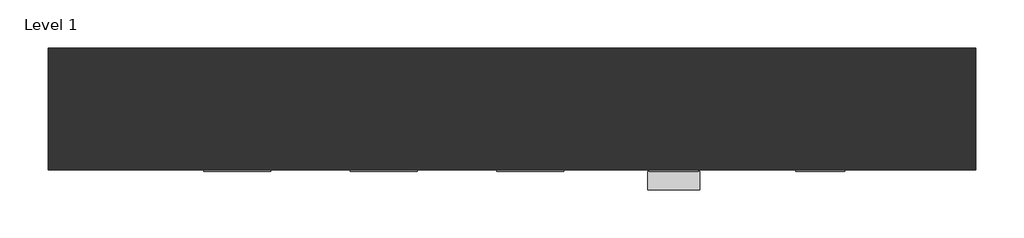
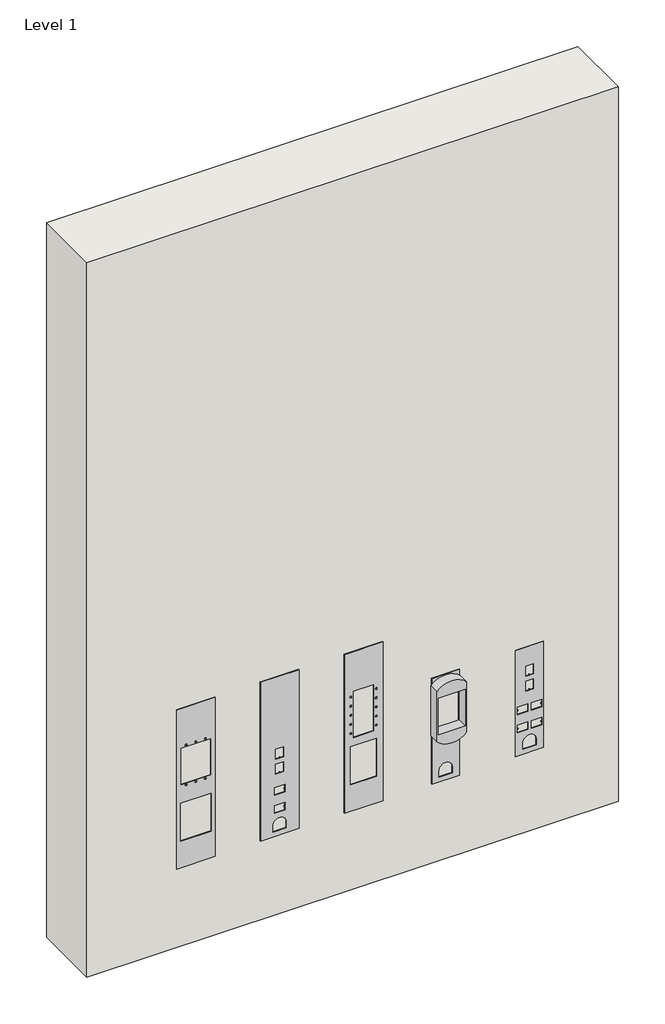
# One storey: 5 proxies, 1 wall.
"""IFC4 building model written with IfcOpenShell, lengths in millimetres."""

import ifcopenshell
import ifcopenshell.guid

model = None  # the IFC model being written
_history = None  # IfcOwnerHistory: only IFC2X3 demands one
_inside = {}  # id of a spatial element -> (the spatial element, [elements in it])
_under = {}  # id of a project, library or spatial element -> (it, [spatial elements below it])
_declared = {}  # id of a project -> (the project, [libraries it declares])
_typed = {}  # id of a type object -> (the type object, [elements of that type])
_made_of = {}  # id of a material, layer set ... -> (it, [elements and type objects made of it])


def new_model(schema):
    """Start an empty IFC model of exactly this schema.

    Asked for "IFC4X3", IfcOpenShell would pick the latest addendum, in which some entities
    have other attributes; the version numbers below select the first issue.
    IFC2X3 requires an IfcOwnerHistory on every rooted entity: one is made here for all.
    """
    global model, _history
    if schema == "IFC4X3":
        model = ifcopenshell.file(schema_version=(4, 3, 0, 0))
    else:
        model = ifcopenshell.file(schema=schema)
    _inside.clear()
    _under.clear()
    _declared.clear()
    _typed.clear()
    _made_of.clear()
    _history = None
    if model.schema == "IFC2X3":
        org = make("IfcOrganization", Name="unknown")
        user = make(
            "IfcPersonAndOrganization",
            ThePerson=make("IfcPerson", FamilyName="unknown"),
            TheOrganization=org,
        )
        app = make(
            "IfcApplication",
            ApplicationDeveloper=org,
            Version="unknown",
            ApplicationFullName="unknown",
            ApplicationIdentifier="unknown",
        )
        _history = make(
            "IfcOwnerHistory",
            OwningUser=user,
            OwningApplication=app,
            ChangeAction="ADDED",
            CreationDate=0,
        )
    return model


def make(cls, **values):
    """One entity of the class cls with the attributes given. An attribute that is None is left unset."""
    return model.create_entity(
        cls, **{name: value for name, value in values.items() if value is not None}
    )


def rooted(cls, **values):
    """An entity with a GlobalId (a new one), such as an element, a storey or a relation."""
    return make(cls, GlobalId=ifcopenshell.guid.new(), OwnerHistory=_history, **values)


def si_unit(unit_type, name, prefix=None):
    """IfcSIUnit, for example si_unit("LENGTHUNIT", "METRE", prefix="MILLI")."""
    return make("IfcSIUnit", UnitType=unit_type, Prefix=prefix, Name=name)


def assignment(units):
    """IfcUnitAssignment: the units of a project."""
    return None if units is None else make("IfcUnitAssignment", Units=units)


def point(xyz):
    """IfcCartesianPoint."""
    return None if xyz is None else make("IfcCartesianPoint", Coordinates=xyz)


def direction(xyz):
    """IfcDirection."""
    return None if xyz is None else make("IfcDirection", DirectionRatios=xyz)


def frame(location, z_axis=None, x_axis=None):
    """IfcAxis2Placement3D, a coordinate frame: its origin and axes. An axis left out is left unset."""
    return make(
        "IfcAxis2Placement3D",
        Location=point(location),
        Axis=direction(z_axis),
        RefDirection=direction(x_axis),
    )


def frame_2d(location, x_axis=None):
    """IfcAxis2Placement2D, a coordinate frame in the plane: its origin and x axis."""
    return make(
        "IfcAxis2Placement2D", Location=point(location), RefDirection=direction(x_axis)
    )


def origin():
    """The frame at (0, 0, 0) with its axes left unset."""
    return frame((0.0, 0.0, 0.0))


def origin_with_axes():
    """The frame at (0, 0, 0) with the z axis (0, 0, 1) and the x axis (1, 0, 0) written out."""
    return frame((0.0, 0.0, 0.0), z_axis=(0.0, 0.0, 1.0), x_axis=(1.0, 0.0, 0.0))


def place(relative_to, where):
    """IfcLocalPlacement: puts the frame where relative to a parent placement (None: the world)."""
    return make(
        "IfcLocalPlacement", PlacementRelTo=relative_to, RelativePlacement=where
    )


def context(
    kind, dimensions, precision=None, world=None, true_north=None, identifier=None
):
    """IfcGeometricRepresentationContext, for example the 3D "Model" context."""
    return make(
        "IfcGeometricRepresentationContext",
        ContextIdentifier=identifier,
        ContextType=kind,
        CoordinateSpaceDimension=dimensions,
        Precision=precision,
        WorldCoordinateSystem=world,
        TrueNorth=true_north,
    )


def project(units=None, contexts=None):
    """IfcProject with its units and contexts."""
    return rooted(
        "IfcProject",
        Name="project",
        RepresentationContexts=contexts,
        UnitsInContext=assignment(units),
    )


def spatial(cls, under=None, at=None, **own):
    """A site, building, storey or space (cls), placed at a placement, below another one or the project."""
    s = rooted(cls, ObjectPlacement=at, **own)
    if under is not None:
        _under.setdefault(under.id(), (under, []))[1].append(s)
    return s


def polyline(points):
    """IfcPolyline through the points."""
    return make("IfcPolyline", Points=[point(p) for p in points])


def circle_curve(where, radius):
    """IfcCircle in the frame where."""
    return make("IfcCircle", Position=where, Radius=radius)


def trimmed(basis, trim1, trim2, sense, master):
    """IfcTrimmedCurve: the piece of a basis curve between two trims."""
    return make(
        "IfcTrimmedCurve",
        BasisCurve=basis,
        Trim1=trim1,
        Trim2=trim2,
        SenseAgreement=sense,
        MasterRepresentation=master,
    )


def segment(curve, same_sense, transition):
    """IfcCompositeCurveSegment."""
    return make(
        "IfcCompositeCurveSegment",
        Transition=transition,
        SameSense=same_sense,
        ParentCurve=curve,
    )


def composite_curve(segments, self_intersect=None):
    """IfcCompositeCurve: segments joined end to end."""
    return make("IfcCompositeCurve", Segments=segments, SelfIntersect=self_intersect)


def outline(outer, holes=None, kind="AREA"):
    """IfcArbitraryClosedProfileDef: a profile drawn as a closed curve; with holes, ...WithVoids."""
    if holes is None:
        return make("IfcArbitraryClosedProfileDef", ProfileType=kind, OuterCurve=outer)
    return make(
        "IfcArbitraryProfileDefWithVoids",
        ProfileType=kind,
        OuterCurve=outer,
        InnerCurves=holes,
    )


def extrude(swept, where, along, depth):
    """IfcExtrudedAreaSolid: the profile swept, set in the frame where, extruded along a direction by depth."""
    return make(
        "IfcExtrudedAreaSolid",
        SweptArea=swept,
        Position=where,
        ExtrudedDirection=direction(along),
        Depth=depth,
    )


def shape(context_of_items, identifier, shape_type, items):
    """IfcShapeRepresentation: the items that make up one representation, for example the "Body"."""
    return make(
        "IfcShapeRepresentation",
        ContextOfItems=context_of_items,
        RepresentationIdentifier=identifier,
        RepresentationType=shape_type,
        Items=items,
    )


def source(mapping_origin, context_of_items, identifier, shape_type, items):
    """IfcRepresentationMap: a shape defined once, which mapped items show again and again."""
    return make(
        "IfcRepresentationMap",
        MappingOrigin=mapping_origin,
        MappedRepresentation=shape(context_of_items, identifier, shape_type, items),
    )


def transform(
    local_origin,
    x_axis=None,
    y_axis=None,
    z_axis=None,
    scale=None,
    scale2=None,
    scale3=None,
    uniform=True,
):
    """IfcCartesianTransformationOperator3D, or its non-uniform kind. x_axis, y_axis, z_axis: its Axis1, 2, 3."""
    if uniform:
        return make(
            "IfcCartesianTransformationOperator3D",
            Axis1=direction(x_axis),
            Axis2=direction(y_axis),
            LocalOrigin=point(local_origin),
            Scale=scale,
            Axis3=direction(z_axis),
        )
    return make(
        "IfcCartesianTransformationOperator3DnonUniform",
        Axis1=direction(x_axis),
        Axis2=direction(y_axis),
        LocalOrigin=point(local_origin),
        Scale=scale,
        Axis3=direction(z_axis),
        Scale2=scale2,
        Scale3=scale3,
    )


def mapped(mapping_source, mapping_target):
    """IfcMappedItem: shows the shape of a source again, moved by a transform."""
    return make(
        "IfcMappedItem", MappingSource=mapping_source, MappingTarget=mapping_target
    )


def made_of(thing, what):
    """Note that an element or type object is made of a material, layer set ...; save() writes the relation."""
    if what is not None:
        _made_of.setdefault(what.id(), (what, []))[1].append(thing)
    return thing


def element(
    cls,
    number,
    at=None,
    inside=None,
    cuts=None,
    type_object=None,
    material=None,
    context=None,
    identifier="Body",
    shape_type=None,
    held_by="IfcProductDefinitionShape",
    body=None,
    shapes=None,
    **own,
):
    """One element of the class cls, such as IfcWall. Its Tag is "e" and its number.

    at: its placement. inside: the storey or other place that contains it. cuts: it is an
    opening in that element (IfcRelVoidsElement). A single representation is given by context,
    identifier, shape_type and body (its items); several are given by shapes. held_by: the class
    of the entity that holds the representations. save() writes the other relations.
    """
    e = rooted(cls, Tag="e%d" % number, ObjectPlacement=at, **own)
    if body is not None:
        shapes = [shape(context, identifier, shape_type, body)]
    if shapes is not None:
        e.Representation = make(held_by, Representations=shapes)
    if inside is not None:
        _inside.setdefault(inside.id(), (inside, []))[1].append(e)
    if cuts is not None:
        rooted(
            "IfcRelVoidsElement", RelatingBuildingElement=cuts, RelatedOpeningElement=e
        )
    if type_object is not None:
        _typed.setdefault(type_object.id(), (type_object, []))[1].append(e)
    return made_of(e, material)


def aggregate(whole, parts):
    """IfcRelAggregates: a whole, such as a stair, and the parts it consists of."""
    return rooted("IfcRelAggregates", RelatingObject=whole, RelatedObjects=parts)


def save(model, path):
    """Write the relations noted so far, then the file.

    IfcRelAggregates (storeys below a building ...), IfcRelContainedInSpatialStructure (elements
    in a storey), IfcRelDefinesByType, IfcRelAssociatesMaterial and IfcRelDeclares: one each for
    every whole, place, type object, material and project.
    """
    for whole, parts in _under.values():
        aggregate(whole, parts)
    for where, things in _inside.values():
        rooted(
            "IfcRelContainedInSpatialStructure",
            RelatedElements=things,
            RelatingStructure=where,
        )
    for kind, things in _typed.values():
        rooted("IfcRelDefinesByType", RelatedObjects=things, RelatingType=kind)
    for what, things in _made_of.values():
        rooted("IfcRelAssociatesMaterial", RelatedObjects=things, RelatingMaterial=what)
    for by, libraries in _declared.values():
        rooted("IfcRelDeclares", RelatingContext=by, RelatedDefinitions=libraries)
    model.write(path)


def communication_devices_bec76b34(model_context):
    return source(origin(), model_context, "Body", "SweptSolid", [
        extrude(outline(polyline([(304.8, 34.925), (304.8, -34.925), (0.0, -34.925), (0.0, 34.925), (304.8, 34.925)]), holes=[composite_curve([segment(polyline([(9.525, -12.05), (21.3100073, -12.05)]), True, "CONTINUOUS"), segment(trimmed(circle_curve(frame_2d((21.3100073, 0.0)), 12.05), [point((21.3100073, -12.05))], [point((21.3100073, 12.05))], True, "CARTESIAN"), True, "CONTINUOUS"), segment(polyline([(21.3100073, 12.05), (9.525, 12.05), (9.525, -12.05)]), True, "CONTINUOUS")], self_intersect=False), polyline([(58.7375, -9.525), (58.7375, 9.525), (44.45, 9.525), (44.45, -9.525), (50.8, -9.525), (50.8, -7.9375), (52.3875, -7.9375), (52.3875, -9.525), (58.7375, -9.525)]), polyline([(119.0625, -7.14375), (138.1125, -7.14375), (138.1125, 7.14375), (119.0625, 7.14375), (119.0625, 0.79375), (120.65, 0.79375), (120.65, -0.79375), (119.0625, -0.79375), (119.0625, -7.14375)]), polyline([(147.6375, -7.14375), (166.6875, -7.14375), (166.6875, 7.14375), (147.6375, 7.14375), (147.6375, 0.79375), (149.225, 0.79375), (149.225, -0.79375), (147.6375, -0.79375), (147.6375, -7.14375)]), polyline([(93.6625, -9.525), (93.6625, 9.525), (79.375, 9.525), (79.375, -9.525), (85.725, -9.525), (85.725, -7.9375), (87.3125, -7.9375), (87.3125, -9.525), (93.6625, -9.525)])]), frame((0.0, 0.0, 0.0), z_axis=(0.0, 1.0, 0.0), x_axis=(0.0, 0.0, 1.0)), (0.0, 0.0, 1.0), 1.5875),
    ])


def communication_devices_a91e55b9(model_context):
    return source(origin(), model_context, "Body", "SweptSolid", [
        extrude(outline(polyline([(304.8, 34.925), (304.8, -34.925), (0.0, -34.925), (0.0, 34.925), (304.8, 34.925)]), holes=[polyline([(123.825, 27.78125), (50.8, 27.78125), (50.8, -27.78125), (123.825, -27.78125), (123.825, 27.78125)]), polyline([(228.6, 26.9875), (158.75, 26.9875), (158.75, -26.9875), (228.6, -26.9875), (228.6, 26.9875)]), composite_curve([segment(trimmed(circle_curve(frame_2d((155.575, 0.0)), 1.5875), [point((155.575, -1.5875))], [point((155.575, 1.5875))], True, "CARTESIAN"), True, "CONTINUOUS"), segment(trimmed(circle_curve(frame_2d((155.575, 0.0)), 1.5875), [point((155.575, 1.5875))], [point((155.575, -1.5875))], True, "CARTESIAN"), True, "CONTINUOUS")], self_intersect=False), composite_curve([segment(trimmed(circle_curve(frame_2d((155.575, 17.4625)), 1.5875), [point((155.575, 15.875))], [point((155.575, 19.05))], True, "CARTESIAN"), True, "CONTINUOUS"), segment(trimmed(circle_curve(frame_2d((155.575, 17.4625)), 1.5875), [point((155.575, 19.05))], [point((155.575, 15.875))], True, "CARTESIAN"), True, "CONTINUOUS")], self_intersect=False), composite_curve([segment(trimmed(circle_curve(frame_2d((155.575, -17.4625)), 1.5875), [point((155.575, -19.05))], [point((155.575, -15.875))], True, "CARTESIAN"), True, "CONTINUOUS"), segment(trimmed(circle_curve(frame_2d((155.575, -17.4625)), 1.5875), [point((155.575, -15.875))], [point((155.575, -19.05))], True, "CARTESIAN"), True, "CONTINUOUS")], self_intersect=False), composite_curve([segment(trimmed(circle_curve(frame_2d((231.775, 0.0)), 1.5875), [point((231.775, -1.5875))], [point((231.775, 1.5875))], True, "CARTESIAN"), True, "CONTINUOUS"), segment(trimmed(circle_curve(frame_2d((231.775, 0.0)), 1.5875), [point((231.775, 1.5875))], [point((231.775, -1.5875))], True, "CARTESIAN"), True, "CONTINUOUS")], self_intersect=False), composite_curve([segment(trimmed(circle_curve(frame_2d((231.775, 17.4625)), 1.5875), [point((231.775, 15.875))], [point((231.775, 19.05))], True, "CARTESIAN"), True, "CONTINUOUS"), segment(trimmed(circle_curve(frame_2d((231.775, 17.4625)), 1.5875), [point((231.775, 19.05))], [point((231.775, 15.875))], True, "CARTESIAN"), True, "CONTINUOUS")], self_intersect=False), composite_curve([segment(trimmed(circle_curve(frame_2d((231.775, -17.4625)), 1.5875), [point((231.775, -19.05))], [point((231.775, -15.875))], True, "CARTESIAN"), True, "CONTINUOUS"), segment(trimmed(circle_curve(frame_2d((231.775, -17.4625)), 1.5875), [point((231.775, -15.875))], [point((231.775, -19.05))], True, "CARTESIAN"), True, "CONTINUOUS")], self_intersect=False)]), frame((0.0, 0.0, 0.0), z_axis=(0.0, 1.0, 0.0), x_axis=(0.0, 0.0, 1.0)), (0.0, 0.0, 1.0), 1.5875),
    ])


def communication_devices_684aa8cd(model_context):
    return source(origin(), model_context, "Body", "SweptSolid", [
        extrude(outline(polyline([(304.8, 34.925), (304.8, -34.925), (0.0, -34.925), (0.0, 34.925), (304.8, 34.925)]), holes=[polyline([(123.825, 23.8125), (50.8, 23.8125), (50.8, -23.8125), (123.825, -23.8125), (123.825, 23.8125)]), polyline([(228.6, 18.25625), (139.7, 18.25625), (139.7, -18.25625), (228.6, -18.25625), (228.6, 18.25625)]), composite_curve([segment(trimmed(circle_curve(frame_2d((184.15, -23.01875)), 1.5875), [point((184.15, -24.60625))], [point((184.15, -21.43125))], True, "CARTESIAN"), True, "CONTINUOUS"), segment(trimmed(circle_curve(frame_2d((184.15, -23.01875)), 1.5875), [point((184.15, -21.43125))], [point((184.15, -24.60625))], True, "CARTESIAN"), True, "CONTINUOUS")], self_intersect=False), composite_curve([segment(trimmed(circle_curve(frame_2d((166.6875, -23.01875)), 1.5875), [point((166.6875, -24.60625))], [point((166.6875, -21.43125))], True, "CARTESIAN"), True, "CONTINUOUS"), segment(trimmed(circle_curve(frame_2d((166.6875, -23.01875)), 1.5875), [point((166.6875, -21.43125))], [point((166.6875, -24.60625))], True, "CARTESIAN"), True, "CONTINUOUS")], self_intersect=False), composite_curve([segment(trimmed(circle_curve(frame_2d((149.225, -23.01875)), 1.5875), [point((149.225, -24.60625))], [point((149.225, -21.43125))], True, "CARTESIAN"), True, "CONTINUOUS"), segment(trimmed(circle_curve(frame_2d((149.225, -23.01875)), 1.5875), [point((149.225, -21.43125))], [point((149.225, -24.60625))], True, "CARTESIAN"), True, "CONTINUOUS")], self_intersect=False), composite_curve([segment(trimmed(circle_curve(frame_2d((201.6125, -23.01875)), 1.5875), [point((201.6125, -24.60625))], [point((201.6125, -21.43125))], True, "CARTESIAN"), True, "CONTINUOUS"), segment(trimmed(circle_curve(frame_2d((201.6125, -23.01875)), 1.5875), [point((201.6125, -21.43125))], [point((201.6125, -24.60625))], True, "CARTESIAN"), True, "CONTINUOUS")], self_intersect=False), composite_curve([segment(trimmed(circle_curve(frame_2d((219.075, -23.01875)), 1.5875), [point((219.075, -24.60625))], [point((219.075, -21.43125))], True, "CARTESIAN"), True, "CONTINUOUS"), segment(trimmed(circle_curve(frame_2d((219.075, -23.01875)), 1.5875), [point((219.075, -21.43125))], [point((219.075, -24.60625))], True, "CARTESIAN"), True, "CONTINUOUS")], self_intersect=False), composite_curve([segment(trimmed(circle_curve(frame_2d((219.075, 23.01875)), 1.5875), [point((219.075, 21.43125))], [point((219.075, 24.60625))], True, "CARTESIAN"), True, "CONTINUOUS"), segment(trimmed(circle_curve(frame_2d((219.075, 23.01875)), 1.5875), [point((219.075, 24.60625))], [point((219.075, 21.43125))], True, "CARTESIAN"), True, "CONTINUOUS")], self_intersect=False), composite_curve([segment(trimmed(circle_curve(frame_2d((201.6125, 23.01875)), 1.5875), [point((201.6125, 21.43125))], [point((201.6125, 24.60625))], True, "CARTESIAN"), True, "CONTINUOUS"), segment(trimmed(circle_curve(frame_2d((201.6125, 23.01875)), 1.5875), [point((201.6125, 24.60625))], [point((201.6125, 21.43125))], True, "CARTESIAN"), True, "CONTINUOUS")], self_intersect=False), composite_curve([segment(trimmed(circle_curve(frame_2d((184.15, 23.01875)), 1.5875), [point((184.15, 21.43125))], [point((184.15, 24.60625))], True, "CARTESIAN"), True, "CONTINUOUS"), segment(trimmed(circle_curve(frame_2d((184.15, 23.01875)), 1.5875), [point((184.15, 24.60625))], [point((184.15, 21.43125))], True, "CARTESIAN"), True, "CONTINUOUS")], self_intersect=False), composite_curve([segment(trimmed(circle_curve(frame_2d((166.6875, 23.01875)), 1.5875), [point((166.6875, 21.43125))], [point((166.6875, 24.60625))], True, "CARTESIAN"), True, "CONTINUOUS"), segment(trimmed(circle_curve(frame_2d((166.6875, 23.01875)), 1.5875), [point((166.6875, 24.60625))], [point((166.6875, 21.43125))], True, "CARTESIAN"), True, "CONTINUOUS")], self_intersect=False), composite_curve([segment(trimmed(circle_curve(frame_2d((149.225, 23.01875)), 1.5875), [point((149.225, 21.43125))], [point((149.225, 24.60625))], True, "CARTESIAN"), True, "CONTINUOUS"), segment(trimmed(circle_curve(frame_2d((149.225, 23.01875)), 1.5875), [point((149.225, 24.60625))], [point((149.225, 21.43125))], True, "CARTESIAN"), True, "CONTINUOUS")], self_intersect=False)]), frame((0.0, 0.0, 0.0), z_axis=(0.0, 1.0, 0.0), x_axis=(0.0, 0.0, 1.0)), (0.0, 0.0, 1.0), 1.5875),
    ])


def communication_devices_789b57db(model_context):
    return source(origin(), model_context, "Body", "SweptSolid", [
        extrude(outline(polyline([(203.2, 25.4), (203.2, -25.4), (0.0, -25.4), (0.0, 25.4), (203.2, 25.4)]), holes=[composite_curve([segment(polyline([(9.525, -12.05), (21.3100073, -12.05)]), True, "CONTINUOUS"), segment(trimmed(circle_curve(frame_2d((21.3100073, 0.0)), 12.05), [point((21.3100073, -12.05))], [point((21.3100073, 12.05))], True, "CARTESIAN"), True, "CONTINUOUS"), segment(polyline([(21.3100073, 12.05), (9.525, 12.05), (9.525, -12.05)]), True, "CONTINUOUS")], self_intersect=False), polyline([(58.7375, -22.225), (58.7375, -3.175), (44.45, -3.175), (44.45, -22.225), (50.8, -22.225), (50.8, -20.6375), (52.3875, -20.6375), (52.3875, -22.225), (58.7375, -22.225)]), polyline([(44.45, 22.225), (44.45, 3.175), (58.7375, 3.175), (58.7375, 22.225), (52.3875, 22.225), (52.3875, 20.6375), (50.8, 20.6375), (50.8, 22.225), (44.45, 22.225)]), polyline([(93.6625, -22.225), (93.6625, -3.175), (79.375, -3.175), (79.375, -22.225), (85.725, -22.225), (85.725, -20.6375), (87.3125, -20.6375), (87.3125, -22.225), (93.6625, -22.225)]), polyline([(93.6625, 3.175), (93.6625, 22.225), (87.3125, 22.225), (87.3125, 20.6375), (85.725, 20.6375), (85.725, 22.225), (79.375, 22.225), (79.375, 3.175), (93.6625, 3.175)]), polyline([(119.0625, -7.14375), (138.1125, -7.14375), (138.1125, 7.14375), (119.0625, 7.14375), (119.0625, 0.79375), (120.65, 0.79375), (120.65, -0.79375), (119.0625, -0.79375), (119.0625, -7.14375)]), polyline([(147.6375, -7.14375), (166.6875, -7.14375), (166.6875, 7.14375), (147.6375, 7.14375), (147.6375, 0.79375), (149.225, 0.79375), (149.225, -0.79375), (147.6375, -0.79375), (147.6375, -7.14375)])]), frame((0.0, 0.0, 0.0), z_axis=(0.0, 1.0, 0.0), x_axis=(0.0, 0.0, 1.0)), (0.0, 0.0, 1.0), 1.5875),
    ])


def proxy_25dtc_3s2_96ee3a1e(model_context):
    return source(origin(), model_context, "Body", "SweptSolid", [
        extrude(outline(composite_curve([segment(polyline([(190.4007813, -26.9875), (93.5632813, -26.9875)]), True, "CONTINUOUS"), segment(trimmed(circle_curve(frame_2d((120.777567, 0.0)), 38.3267857), [point((93.5632813, -26.9875))], [point((93.5632813, 26.9875))], False, "CARTESIAN"), True, "CONTINUOUS"), segment(polyline([(93.5632813, 26.9875), (190.4007813, 26.9875)]), True, "CONTINUOUS"), segment(trimmed(circle_curve(frame_2d((163.1864955, 0.0)), 38.3267857), [point((190.4007813, 26.9875))], [point((190.4007813, -26.9875))], False, "CARTESIAN"), True, "CONTINUOUS")], self_intersect=False), holes=[polyline([(176.9070312, 24.60625), (107.0570313, 24.60625), (107.0570313, -24.60625), (176.9070312, -24.60625), (176.9070312, 24.60625)])]), frame((0.0, -19.05, 0.0), z_axis=(0.0, 1.0, 0.0), x_axis=(0.0, 0.0, 1.0)), (0.0, 0.0, 1.0), 19.05),
        extrude(outline(polyline([(203.2, 25.4), (203.2, -25.4), (0.0, -25.4), (0.0, 25.4), (203.2, 25.4)]), holes=[composite_curve([segment(polyline([(21.3100073, 12.05), (9.525, 12.05), (9.525, -12.05), (21.3100073, -12.05)]), True, "CONTINUOUS"), segment(trimmed(circle_curve(frame_2d((21.3100073, 0.0)), 12.05), [point((21.3100073, -12.05))], [point((21.3100073, 12.05))], True, "CARTESIAN"), True, "CONTINUOUS")], self_intersect=False), polyline([(185.7375, 23.01875), (100.0125, 23.01875), (100.0125, -23.01875), (185.7375, -23.01875), (185.7375, 23.01875)])]), frame((0.0, 0.0, 0.0), z_axis=(0.0, 1.0, 0.0), x_axis=(0.0, 0.0, 1.0)), (0.0, 0.0, 1.0), 1.5875),
    ])


model = new_model("IFC4")

# Units and contexts
model_context = context("Model", 3, world=origin())
ifc_project = project(units=[si_unit("LENGTHUNIT", "METRE", prefix="MILLI")], contexts=[model_context])

# Site, building, storey
site = spatial("IfcSite", under=ifc_project)
building = spatial("IfcBuilding", under=site)
storey = spatial("IfcBuildingStorey", under=building, Name="Level 1", Elevation=0.0)

# Proxies
placement = place(None, origin())
communication_devices_shape = communication_devices_bec76b34(model_context)
element("IfcBuildingElementProxy", 1, Name="Accessory-Wiremold-Data_And_AV_Add_on_Cover_30_Series_Poles : 30TC-CVR", ObjectType="Accessory-Wiremold-Data_And_AV_Add_on_Cover_30_Series_Poles : 30TC-CVR", at=placement, inside=storey, context=model_context, shape_type="MappedRepresentation", body=[
    mapped(communication_devices_shape, transform((3427.0473575, 1995.6715466, 152.4), x_axis=(-1.0000000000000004, 0.0, 0.0), y_axis=(0.0, -1.0000000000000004, 0.0), z_axis=(0.0, 0.0, 1.0))),
])
communication_devices_2_shape = communication_devices_a91e55b9(model_context)
element("IfcBuildingElementProxy", 2, Name="Accessory-Wiremold-Data_And_AV_Add_on_Cover_30_Series_Poles : 30TC-AAP", ObjectType="Accessory-Wiremold-Data_And_AV_Add_on_Cover_30_Series_Poles : 30TC-AAP", at=placement, inside=storey, context=model_context, shape_type="MappedRepresentation", body=[
    mapped(communication_devices_2_shape, transform((3274.6473575, 1994.0840466, 152.4), x_axis=(1.0, 0.0, 0.0), y_axis=(0.0, 1.0, 0.0), z_axis=(0.0, 0.0, 1.0))),
])
communication_devices_3_shape = communication_devices_684aa8cd(model_context)
element("IfcBuildingElementProxy", 3, Name="Accessory-Wiremold-Data_And_AV_Add_on_Cover_30_Series_Poles : 30TC-MAAP", ObjectType="Accessory-Wiremold-Data_And_AV_Add_on_Cover_30_Series_Poles : 30TC-MAAP", at=placement, inside=storey, context=model_context, shape_type="MappedRepresentation", body=[
    mapped(communication_devices_3_shape, transform((3579.4473575, 1995.6715466, 152.4), x_axis=(-1.0000000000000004, 0.0, 0.0), y_axis=(0.0, -1.0000000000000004, 0.0), z_axis=(0.0, 0.0, 1.0))),
])
communication_devices_4_shape = communication_devices_789b57db(model_context)
element("IfcBuildingElementProxy", 4, Name="Accessory-Wiremold-Data_And_AV_Add_on_Cover_25_Series_Poles : 25DTC-CVR", ObjectType="Accessory-Wiremold-Data_And_AV_Add_on_Cover_25_Series_Poles : 25DTC-CVR", at=placement, inside=storey, context=model_context, shape_type="MappedRepresentation", body=[
    mapped(communication_devices_4_shape, transform((3881.0723575, 1994.0840466, 152.4), x_axis=(1.0, 0.0, 0.0), y_axis=(0.0, 1.0, 0.0), z_axis=(0.0, 0.0, 1.0))),
])
proxy_25dtc_3s2_shape = proxy_25dtc_3s2_96ee3a1e(model_context)
element("IfcBuildingElementProxy", 5, Name="Accessory-Wiremold-Data_And_AV_Add_on_Cover_25_Series_Poles : 25DTC-3S2", ObjectType="Accessory-Wiremold-Data_And_AV_Add_on_Cover_25_Series_Poles : 25DTC-3S2", at=placement, inside=storey, context=model_context, shape_type="MappedRepresentation", body=[
    mapped(proxy_25dtc_3s2_shape, transform((3728.6723575, 1994.0840466, 152.4), x_axis=(1.0, 0.0, 0.0), y_axis=(0.0, 1.0, 0.0), z_axis=(0.0, 0.0, 1.0))),
])

# Wall
element("IfcWall", 6, ObjectType="Generic - 5\"", at=placement, inside=storey, context=model_context, shape_type="SweptSolid", body=[
    extrude(outline(polyline([(4042.9973575, 1995.6715466), (3077.7973575, 1995.6715466), (3077.7973575, 2122.6715466), (4042.9973575, 2122.6715466), (4042.9973575, 1995.6715466)])), origin_with_axes(), (0.0, 0.0, 1.0), 1371.6),
])

save(model, "model.ifc")
